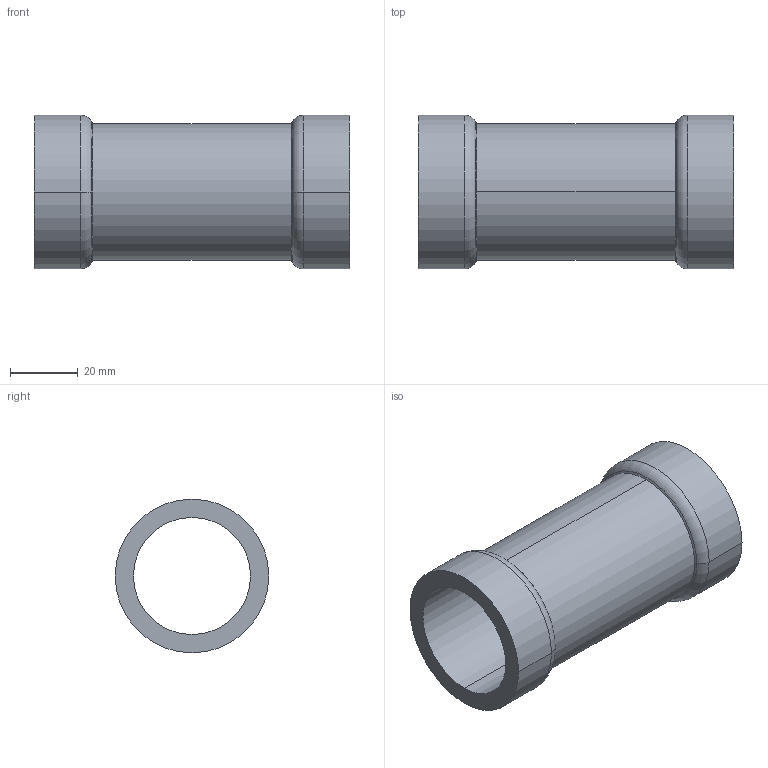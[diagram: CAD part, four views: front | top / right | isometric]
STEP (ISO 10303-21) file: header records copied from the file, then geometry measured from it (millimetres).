
FILE_DESCRIPTION(('Creo Elements/Direct Modeling STEP Export'),'2;1');
FILE_NAME('C9403_1.stp','2020-06-18T13:48:32',(''),(''),'PTC Creo Elements/Direct Modeling STEP processor for AP214 (Solid Model)','PTC Creo Elements/Direct Modeling 19.0C 15-Aug-2015 (C) Parametric Technology GmbH','');
FILE_SCHEMA(('AUTOMOTIVE_DESIGN { 1 0 10303 214 1 1 1 1 }'));
Length unit declared in the file: millimetre
Products named in the file (1): 9403_1
Bounding box: 93.4 x 45.4 x 45.4 mm (x, y, z)
Volume: 42894.4 mm3; surface area: 24161.8 mm2
Topology: 1 solids, 1 shells, 18 faces, 40 edges, 24 vertices
Faces by surface type: cylinder 8, cone 4, torus 4, plane 2
Entity records: 464 total; most frequent: ORIENTED_EDGE 80, DIRECTION 78, CARTESIAN_POINT 69, EDGE_CURVE 40, AXIS2_PLACEMENT_3D 33, VERTEX_POINT 24, EDGE_LOOP 20, FACE_OUTER_BOUND 18
